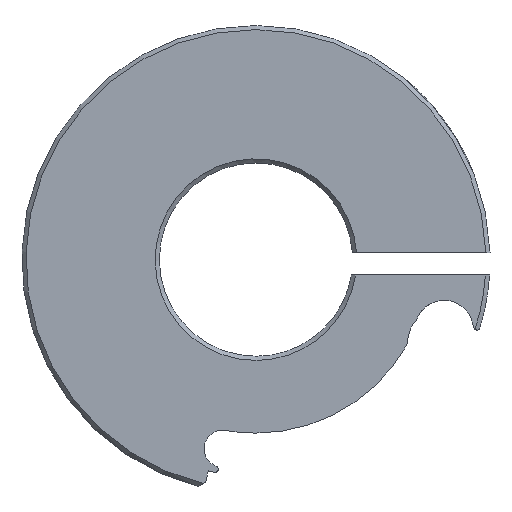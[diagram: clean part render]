
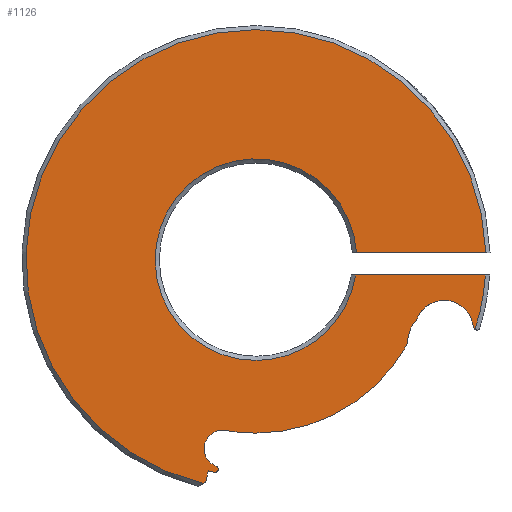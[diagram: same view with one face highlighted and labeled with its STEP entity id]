
A CAD part, front view. The second image highlights one B-rep face of the part: STEP entity #1126.
In plain terms, the highlighted planar face has unit normal (0, -1, 0).
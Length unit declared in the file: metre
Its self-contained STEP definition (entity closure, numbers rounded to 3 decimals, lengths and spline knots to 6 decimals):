
#194=CARTESIAN_POINT('',(0.046247,0.0019,
-0.013999));
#220=DIRECTION('',(1.,0.,0.));
#221=VECTOR('',#220,0.027726);
#222=CARTESIAN_POINT('',(0.020725,0.0019,-0.002381));
#223=LINE('',#222,#221);
#224=CARTESIAN_POINT('',(-0.00055,0.0019,
0.000899));
#225=DIRECTION('',(0.,1.,0.));
#226=DIRECTION('',(0.998,0.,-0.067));
#227=AXIS2_PLACEMENT_3D('',#224,#225,#226);
#229=CARTESIAN_POINT('',(0.046663,0.0019,
-0.013519));
#230=DIRECTION('',(0.,1.,0.));
#231=DIRECTION('',(-0.655,0.,-0.756));
#232=AXIS2_PLACEMENT_3D('',#229,#230,#231);
#234=CARTESIAN_POINT('',(0.037766,0.0019,
-0.01925));
#235=DIRECTION('',(0.,-1.,0.));
#236=DIRECTION('',(0.841,0.,0.542));
#237=AXIS2_PLACEMENT_3D('',#234,#235,#236);
#239=CARTESIAN_POINT('',(0.03964,0.0019,
-0.014012));
#240=DIRECTION('',(0.,-1.,0.));
#241=DIRECTION('',(0.996,0.,0.091));
#242=AXIS2_PLACEMENT_3D('',#239,#240,#241);
#244=CARTESIAN_POINT('',(0.03964,0.0019,
-0.014012));
#245=DIRECTION('',(0.,-1.,0.));
#246=DIRECTION('',(0.,0.,1.));
#247=AXIS2_PLACEMENT_3D('',#244,#245,#246);
#249=CARTESIAN_POINT('',(0.039671,0.0019,
-0.017008));
#250=DIRECTION('',(0.,-1.,0.));
#251=DIRECTION('',(-0.748,0.,0.663));
#252=AXIS2_PLACEMENT_3D('',#249,#250,#251);
#254=CARTESIAN_POINT('',(-0.00055,0.0019,
0.000899));
#255=DIRECTION('',(0.,1.,0.));
#256=DIRECTION('',(0.874,0.,-0.485));
#257=AXIS2_PLACEMENT_3D('',#254,#255,#256);
#259=CARTESIAN_POINT('',(-0.00055,0.0019,
0.000899));
#260=DIRECTION('',(0.,1.,0.));
#261=DIRECTION('',(0.,0.,-1.));
#262=AXIS2_PLACEMENT_3D('',#259,#260,#261);
#264=CARTESIAN_POINT('',(-0.007669,0.0019,
-0.039478));
#265=DIRECTION('',(0.,-1.,0.));
#266=DIRECTION('',(0.105,0.,0.994));
#267=AXIS2_PLACEMENT_3D('',#264,#265,#266);
#269=CARTESIAN_POINT('',(-0.009247,0.0019,
-0.043843));
#270=DIRECTION('',(0.,1.,0.));
#271=DIRECTION('',(0.34,0.,0.94));
#272=AXIS2_PLACEMENT_3D('',#269,#270,#271);
#274=CARTESIAN_POINT('',(-0.009247,0.0019,
-0.043843));
#275=DIRECTION('',(0.,1.,0.));
#276=DIRECTION('',(0.,0.,-1.));
#277=AXIS2_PLACEMENT_3D('',#274,#275,#276);
#279=CARTESIAN_POINT('',(-0.00055,0.0019,
0.000899));
#280=DIRECTION('',(0.,1.,0.));
#281=DIRECTION('',(-0.19,0.,-0.982));
#282=AXIS2_PLACEMENT_3D('',#279,#280,#281);
#284=DIRECTION('',(-0.25,0.,-0.968));
#285=VECTOR('',#284,0.002482);
#286=CARTESIAN_POINT('',(-0.010702,0.0019,
-0.044222));
#287=LINE('',#286,#285);
#288=DIRECTION('',(-0.862,0.,-0.508));
#289=VECTOR('',#288,0.000553);
#290=CARTESIAN_POINT('',(-0.011324,0.0019,
-0.046626));
#291=LINE('',#290,#289);
#292=CARTESIAN_POINT('',(-0.00055,0.0019,
0.000899));
#293=DIRECTION('',(0.,1.,0.));
#294=DIRECTION('',(-0.229,0.,-0.973));
#295=AXIS2_PLACEMENT_3D('',#292,#293,#294);
#297=CARTESIAN_POINT('',(-0.00055,0.0019,
0.000899));
#298=DIRECTION('',(0.,1.,0.));
#299=DIRECTION('',(0.,0.,1.));
#300=AXIS2_PLACEMENT_3D('',#297,#298,#299);
#302=CARTESIAN_POINT('',(-0.00055,0.0019,
0.000899));
#303=DIRECTION('',(0.,-1.,0.));
#304=DIRECTION('',(0.998,0.,0.069));
#305=AXIS2_PLACEMENT_3D('',#302,#303,#304);
#307=CARTESIAN_POINT('',(-0.00055,0.0019,
0.000899));
#308=DIRECTION('',(0.,-1.,0.));
#309=DIRECTION('',(0.,0.,-1.));
#310=AXIS2_PLACEMENT_3D('',#307,#308,#309);
#312=CARTESIAN_POINT('',(0.048452,0.0019,-0.002381));
#441=DIRECTION('',(1.,0.,0.));
#442=VECTOR('',#441,0.027613);
#443=CARTESIAN_POINT('',(0.020926,0.0019,0.002381));
#444=LINE('',#443,#442);
#524=CARTESIAN_POINT('',(0.020926,0.0019,0.002381));
#749=VERTEX_POINT('',#312);
#750=CARTESIAN_POINT('',(0.020725,0.0019,-0.002381));
#751=VERTEX_POINT('',#750);
#762=CARTESIAN_POINT('',(0.033811,0.0019,
-0.011813));
#763=VERTEX_POINT('',#762);
#764=CARTESIAN_POINT('',(0.046129,0.0019,
-0.013863));
#765=CARTESIAN_POINT('',(0.045845,0.0019,
-0.013445));
#766=VERTEX_POINT('',#764);
#767=VERTEX_POINT('',#765);
#768=CARTESIAN_POINT('',(0.03964,0.0019,
-0.007782));
#769=VERTEX_POINT('',#768);
#770=CARTESIAN_POINT('',(0.031839,0.0019,
-0.017074));
#771=VERTEX_POINT('',#770);
#775=VERTEX_POINT('',#194);
#779=CARTESIAN_POINT('',(-0.00055,0.0019,
-0.036143));
#780=VERTEX_POINT('',#779);
#781=CARTESIAN_POINT('',(-0.007253,0.0019,
-0.035531));
#782=VERTEX_POINT('',#781);
#783=CARTESIAN_POINT('',(-0.009018,0.0019,
-0.043211));
#784=VERTEX_POINT('',#783);
#785=CARTESIAN_POINT('',(-0.009247,0.0019,
-0.044515));
#786=VERTEX_POINT('',#785);
#787=CARTESIAN_POINT('',(-0.009325,0.0019,
-0.04451));
#788=VERTEX_POINT('',#787);
#789=CARTESIAN_POINT('',(-0.010702,0.0019,
-0.044222));
#790=VERTEX_POINT('',#789);
#791=CARTESIAN_POINT('',(-0.011324,0.0019,
-0.046626));
#792=VERTEX_POINT('',#791);
#797=CARTESIAN_POINT('',(-0.0118,0.0019,
-0.046906));
#798=VERTEX_POINT('',#797);
#811=VERTEX_POINT('',#524);
#812=CARTESIAN_POINT('',(0.048539,0.0019,0.002381));
#813=VERTEX_POINT('',#812);
#835=CARTESIAN_POINT('',(-0.00055,0.0019,
-0.020628));
#836=VERTEX_POINT('',#835);
#839=CARTESIAN_POINT('',(-0.00055,0.0019,
0.05001));
#840=VERTEX_POINT('',#839);
#1082=CARTESIAN_POINT('',(-0.000568,0.0019,
0.001552));
#1083=DIRECTION('',(0.,1.,0.));
#1084=DIRECTION('',(0.,0.,1.));
#1085=AXIS2_PLACEMENT_3D('',#1082,#1083,#1084);
#1086=PLANE('',#1085);
#1087=ORIENTED_EDGE('',*,*,#983,.T.);
#1089=ORIENTED_EDGE('',*,*,#1088,.T.);
#1090=ORIENTED_EDGE('',*,*,#1041,.T.);
#1091=ORIENTED_EDGE('',*,*,#1066,.T.);
#1093=ORIENTED_EDGE('',*,*,#1092,.T.);
#1095=ORIENTED_EDGE('',*,*,#1094,.T.);
#1097=ORIENTED_EDGE('',*,*,#1096,.T.);
#1099=ORIENTED_EDGE('',*,*,#1098,.T.);
#1101=ORIENTED_EDGE('',*,*,#1100,.T.);
#1103=ORIENTED_EDGE('',*,*,#1102,.T.);
#1105=ORIENTED_EDGE('',*,*,#1104,.T.);
#1107=ORIENTED_EDGE('',*,*,#1106,.T.);
#1109=ORIENTED_EDGE('',*,*,#1108,.T.);
#1111=ORIENTED_EDGE('',*,*,#1110,.T.);
#1113=ORIENTED_EDGE('',*,*,#1112,.T.);
#1115=ORIENTED_EDGE('',*,*,#1114,.T.);
#1117=ORIENTED_EDGE('',*,*,#1116,.T.);
#1119=ORIENTED_EDGE('',*,*,#1118,.F.);
#1121=ORIENTED_EDGE('',*,*,#1120,.T.);
#1123=ORIENTED_EDGE('',*,*,#1122,.T.);
#1124=EDGE_LOOP('',(#1087,#1089,#1090,#1091,#1093,#1095,#1097,#1099,#1101,#1103,
#1105,#1107,#1109,#1111,#1113,#1115,#1117,#1119,#1121,#1123));
#1125=FACE_OUTER_BOUND('',#1124,.F.);
#228=CIRCLE('',#227,0.049111);
#233=CIRCLE('',#232,0.000635);
#238=CIRCLE('',#237,0.009948);
#243=CIRCLE('',#242,0.006231);
#248=CIRCLE('',#247,0.006231);
#253=CIRCLE('',#252,0.007832);
#258=CIRCLE('',#257,0.037042);
#263=CIRCLE('',#262,0.037042);
#268=CIRCLE('',#267,0.003969);
#273=CIRCLE('',#272,0.000672);
#278=CIRCLE('',#277,0.000672);
#283=CIRCLE('',#282,0.046249);
#296=CIRCLE('',#295,0.049111);
#301=CIRCLE('',#300,0.049111);
#306=CIRCLE('',#305,0.021527);
#311=CIRCLE('',#310,0.021527);
#983=EDGE_CURVE('',#751,#749,#223,.T.);
#1041=EDGE_CURVE('',#775,#766,#233,.T.);
#1066=EDGE_CURVE('',#766,#767,#238,.T.);
#1088=EDGE_CURVE('',#749,#775,#228,.T.);
#1092=EDGE_CURVE('',#767,#769,#243,.T.);
#1094=EDGE_CURVE('',#769,#763,#248,.T.);
#1096=EDGE_CURVE('',#763,#771,#253,.T.);
#1098=EDGE_CURVE('',#771,#780,#258,.T.);
#1100=EDGE_CURVE('',#780,#782,#263,.T.);
#1102=EDGE_CURVE('',#782,#784,#268,.T.);
#1104=EDGE_CURVE('',#784,#786,#273,.T.);
#1106=EDGE_CURVE('',#786,#788,#278,.T.);
#1108=EDGE_CURVE('',#788,#790,#283,.T.);
#1110=EDGE_CURVE('',#790,#792,#287,.T.);
#1112=EDGE_CURVE('',#792,#798,#291,.T.);
#1114=EDGE_CURVE('',#798,#840,#296,.T.);
#1116=EDGE_CURVE('',#840,#813,#301,.T.);
#1118=EDGE_CURVE('',#811,#813,#444,.T.);
#1120=EDGE_CURVE('',#811,#836,#306,.T.);
#1122=EDGE_CURVE('',#836,#751,#311,.T.);
#1126=ADVANCED_FACE('',(#1125),#1086,.F.);
